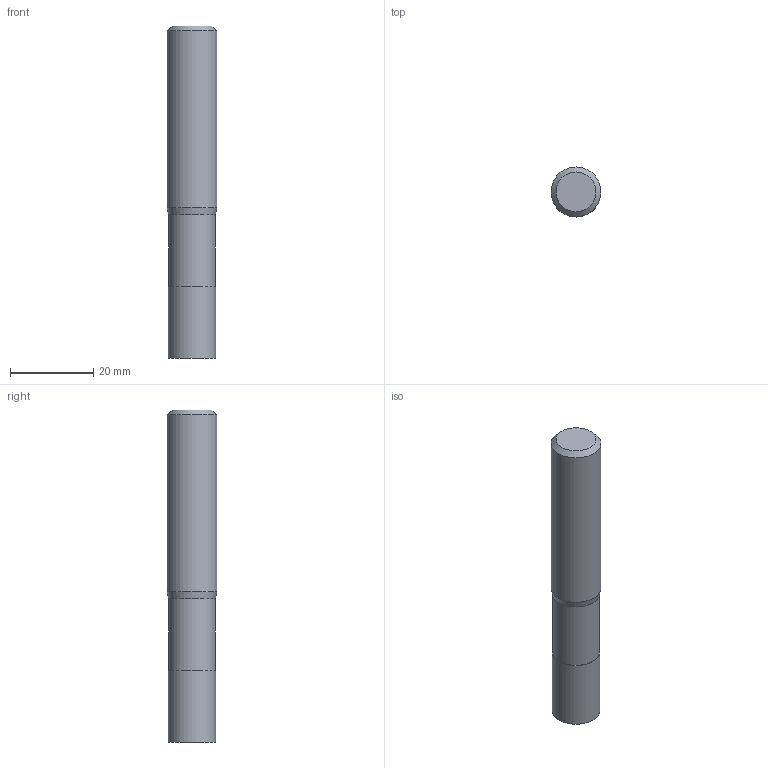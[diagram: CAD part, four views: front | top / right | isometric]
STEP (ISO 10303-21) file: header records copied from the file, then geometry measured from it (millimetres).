
FILE_DESCRIPTION((''),'2;1');
FILE_NAME('C:\Users\nsx150\AppData\Local\Temp\Mastercam 2021\EUJSUNXURU\TEMP.step','2021-04-22T10:30:21',(''),(''),'STEP Write','Mastercam 2021 ... CNC Software, Inc.','');
FILE_SCHEMA(('AUTOMOTIVE_DESIGN'));
Length unit declared in the file: millimetre
Products named in the file (1): None
Bounding box: 12 x 12 x 80 mm (x, y, z)
Volume: 8631.8 mm3; surface area: 3343.2 mm2
Topology: 2 solids, 2 shells, 9 faces, 12 edges, 7 vertices
Faces by surface type: plane 4, cylinder 3, cone 2
Full cylindrical faces by diameter (mm): 11.3 x1, 11.5 x1, 12 x1
Entity records: 211 total; most frequent: DIRECTION 36, CARTESIAN_POINT 25, AXIS2_PLACEMENT_3D 18, ORIENTED_EDGE 14, EDGE_LOOP 14, STYLED_ITEM 12, ADVANCED_FACE 9, FACE_BOUND 8
